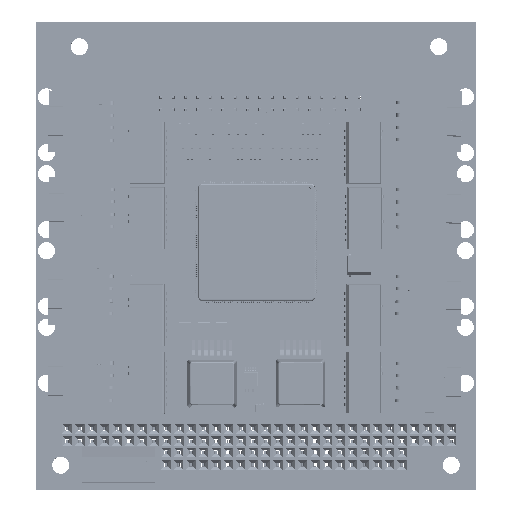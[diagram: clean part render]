
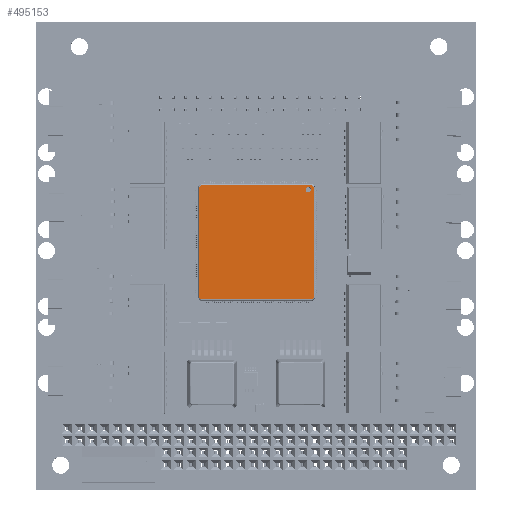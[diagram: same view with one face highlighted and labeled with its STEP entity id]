
A CAD part, top view. The second image highlights one B-rep face of the part: STEP entity #495153.
In plain terms, the highlighted planar face has unit normal (0, 0, 1).
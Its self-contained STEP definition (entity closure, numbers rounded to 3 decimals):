
#24230 = CARTESIAN_POINT ( 'NONE',  ( 56.558, 62.453, 3.185 ) ) ;
#31522 = EDGE_CURVE ( 'NONE', #509693, #481526, #420975, .T. ) ;
#33234 = EDGE_CURVE ( 'NONE', #166552, #205019, #402793, .T. ) ;
#34508 = ORIENTED_EDGE ( 'NONE', *, *, #267078, .T. ) ;
#36341 = CARTESIAN_POINT ( 'NONE',  ( 33.806, 62.453, 3.185 ) ) ;
#48385 = PLANE ( 'NONE',  #111458 ) ;
#51249 = VERTEX_POINT ( 'NONE', #388674 ) ;
#56391 = CARTESIAN_POINT ( 'NONE',  ( 33.862, 38.995, 3.185 ) ) ;
#84756 = DIRECTION ( 'NONE',  ( 0.707, 0.707, 0. ) ) ;
#86638 = DIRECTION ( 'NONE',  ( 0., 1., 0. ) ) ;
#88725 = CARTESIAN_POINT ( 'NONE',  ( 56.502, 62.509, 3.185 ) ) ;
#90385 = EDGE_CURVE ( 'NONE', #275567, #275567, #449049, .T. ) ;
#110486 = EDGE_CURVE ( 'NONE', #51249, #389112, #291488, .T. ) ;
#111458 = AXIS2_PLACEMENT_3D ( 'NONE', #331634, #375219, #86638 ) ;
#114746 = LINE ( 'NONE', #531670, #153460 ) ;
#141658 = ORIENTED_EDGE ( 'NONE', *, *, #232567, .T. ) ;
#153247 = CARTESIAN_POINT ( 'NONE',  ( 55.782, 60.952, 3.185 ) ) ;
#153460 = VECTOR ( 'NONE', #242423, 1000. ) ;
#156006 = ORIENTED_EDGE ( 'NONE', *, *, #31522, .T. ) ;
#163677 = CARTESIAN_POINT ( 'NONE',  ( 56.883, 62.208, 3.185 ) ) ;
#166552 = VERTEX_POINT ( 'NONE', #36341 ) ;
#205019 = VERTEX_POINT ( 'NONE', #422755 ) ;
#225111 = ORIENTED_EDGE ( 'NONE', *, *, #33234, .T. ) ;
#232567 = EDGE_CURVE ( 'NONE', #517535, #51249, #284818, .T. ) ;
#233396 = VECTOR ( 'NONE', #292756, 1000. ) ;
#242423 = DIRECTION ( 'NONE',  ( -1., 0., 0. ) ) ;
#244518 = DIRECTION ( 'NONE',  ( -0.707, -0.707, 0. ) ) ;
#245251 = DIRECTION ( 'NONE',  ( 0., 1., 0. ) ) ;
#254070 = ORIENTED_EDGE ( 'NONE', *, *, #342830, .T. ) ;
#254247 = VECTOR ( 'NONE', #245251, 1000. ) ;
#264197 = EDGE_CURVE ( 'NONE', #481526, #166552, #114746, .T. ) ;
#267078 = EDGE_CURVE ( 'NONE', #205019, #505211, #453898, .T. ) ;
#268827 = CARTESIAN_POINT ( 'NONE',  ( 55.782, 61.502, 3.185 ) ) ;
#269738 = CARTESIAN_POINT ( 'NONE',  ( 56.883, 39.376, 3.185 ) ) ;
#275567 = VERTEX_POINT ( 'NONE', #153247 ) ;
#278172 = ORIENTED_EDGE ( 'NONE', *, *, #90385, .T. ) ;
#284818 = LINE ( 'NONE', #290202, #311748 ) ;
#285707 = ORIENTED_EDGE ( 'NONE', *, *, #264197, .T. ) ;
#287495 = DIRECTION ( 'NONE',  ( 1., 0., 0. ) ) ;
#290202 = CARTESIAN_POINT ( 'NONE',  ( 56.638, 39.051, 3.185 ) ) ;
#291488 = LINE ( 'NONE', #376029, #409387 ) ;
#292756 = DIRECTION ( 'NONE',  ( -0.707, 0.707, 0. ) ) ;
#301311 = LINE ( 'NONE', #56391, #390297 ) ;
#311748 = VECTOR ( 'NONE', #287495, 1000. ) ;
#314303 = VECTOR ( 'NONE', #369427, 1000. ) ;
#315076 = EDGE_CURVE ( 'NONE', #505211, #517535, #301311, .T. ) ;
#331634 = CARTESIAN_POINT ( 'NONE',  ( 45.182, 50.752, 3.185 ) ) ;
#336523 = CARTESIAN_POINT ( 'NONE',  ( 33.481, 39.297, 3.185 ) ) ;
#340421 = CARTESIAN_POINT ( 'NONE',  ( 56.883, 62.128, 3.185 ) ) ;
#342830 = EDGE_CURVE ( 'NONE', #389112, #509693, #414354, .T. ) ;
#349830 = EDGE_LOOP ( 'NONE', ( #141658, #374433, #254070, #156006, #285707, #225111, #34508, #469191 ) ) ;
#350314 = EDGE_LOOP ( 'NONE', ( #278172 ) ) ;
#362220 = VECTOR ( 'NONE', #244518, 1000. ) ;
#369427 = DIRECTION ( 'NONE',  ( 0., -1., 0. ) ) ;
#374433 = ORIENTED_EDGE ( 'NONE', *, *, #110486, .T. ) ;
#375219 = DIRECTION ( 'NONE',  ( 0., 0., -1. ) ) ;
#376029 = CARTESIAN_POINT ( 'NONE',  ( 56.939, 39.432, 3.185 ) ) ;
#377937 = FACE_OUTER_BOUND ( 'NONE', #349830, .T. ) ;
#388674 = CARTESIAN_POINT ( 'NONE',  ( 56.558, 39.051, 3.185 ) ) ;
#389112 = VERTEX_POINT ( 'NONE', #269738 ) ;
#390297 = VECTOR ( 'NONE', #462390, 1000. ) ;
#394275 = CARTESIAN_POINT ( 'NONE',  ( 33.806, 39.051, 3.185 ) ) ;
#399725 = DIRECTION ( 'NONE',  ( 0., 0., -1. ) ) ;
#402793 = LINE ( 'NONE', #490031, #362220 ) ;
#409387 = VECTOR ( 'NONE', #84756, 1000. ) ;
#413547 = FACE_BOUND ( 'NONE', #350314, .T. ) ;
#414354 = LINE ( 'NONE', #163677, #254247 ) ;
#420975 = LINE ( 'NONE', #88725, #233396 ) ;
#422755 = CARTESIAN_POINT ( 'NONE',  ( 33.481, 62.128, 3.185 ) ) ;
#426141 = CARTESIAN_POINT ( 'NONE',  ( 33.481, 39.376, 3.185 ) ) ;
#435250 = DIRECTION ( 'NONE',  ( 0., -1., 0. ) ) ;
#449049 = CIRCLE ( 'NONE', #536502, 0.55 ) ;
#453898 = LINE ( 'NONE', #336523, #314303 ) ;
#462390 = DIRECTION ( 'NONE',  ( 0.707, -0.707, 0. ) ) ;
#469191 = ORIENTED_EDGE ( 'NONE', *, *, #315076, .T. ) ;
#481526 = VERTEX_POINT ( 'NONE', #24230 ) ;
#490031 = CARTESIAN_POINT ( 'NONE',  ( 33.425, 62.072, 3.185 ) ) ;
#495153 = ADVANCED_FACE ( 'NONE', ( #413547, #377937 ), #48385, .F. ) ;
#505211 = VERTEX_POINT ( 'NONE', #426141 ) ;
#509693 = VERTEX_POINT ( 'NONE', #340421 ) ;
#517535 = VERTEX_POINT ( 'NONE', #394275 ) ;
#531670 = CARTESIAN_POINT ( 'NONE',  ( 33.726, 62.453, 3.185 ) ) ;
#536502 = AXIS2_PLACEMENT_3D ( 'NONE', #268827, #399725, #435250 ) ;
